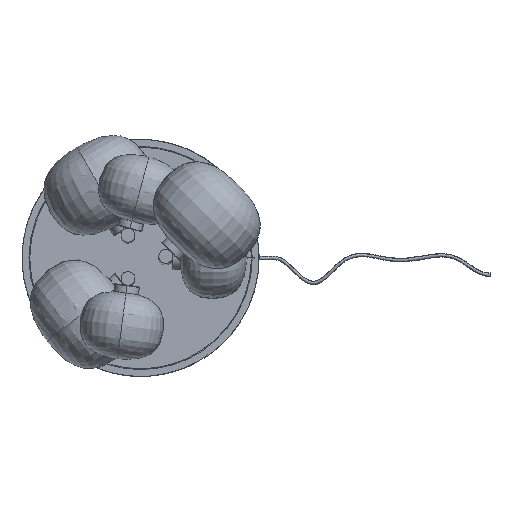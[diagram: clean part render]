
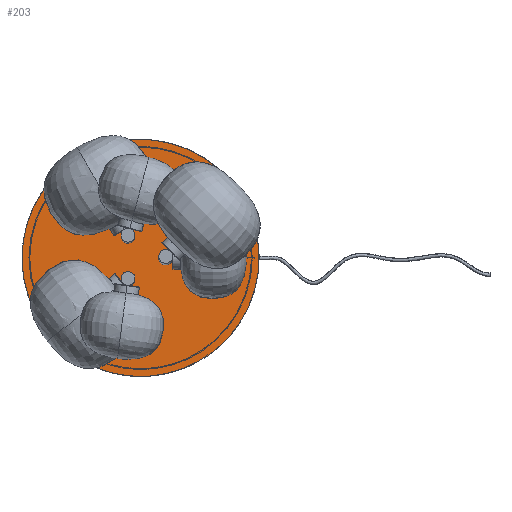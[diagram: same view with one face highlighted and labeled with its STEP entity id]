
A CAD part, top view. The second image highlights one B-rep face of the part: STEP entity #203.
In plain terms, the highlighted free-form (B-spline) face has degree [1, 1] with [2, 2] control points.
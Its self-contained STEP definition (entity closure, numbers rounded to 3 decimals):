
#52=B_SPLINE_SURFACE_WITH_KNOTS('',1,1,((#15540,#15541),(#15542,#15543)),
 .UNSPECIFIED.,.F.,.F.,.F.,(2,2),(2,2),(-212.5,212.5),(-212.5,212.5),
 .UNSPECIFIED.);
#203=ADVANCED_FACE('',(#423),#52,.T.);
#423=FACE_OUTER_BOUND('',#648,.T.);
#648=EDGE_LOOP('',(#1037,#1038));
#1037=ORIENTED_EDGE('',*,*,#5821,.F.);
#1038=ORIENTED_EDGE('',*,*,#5825,.T.);
#2118=PCURVE('',#7197,#3204);
#2123=PCURVE('',#52,#3209);
#2124=PCURVE('',#52,#3210);
#2127=PCURVE('',#7198,#3213);
#3204=DEFINITIONAL_REPRESENTATION('',(#4302),#44035);
#3209=DEFINITIONAL_REPRESENTATION('',(#6360),#44035);
#3210=DEFINITIONAL_REPRESENTATION('',(#6362),#44035);
#3213=DEFINITIONAL_REPRESENTATION('',(#4307),#44035);
#4302=B_SPLINE_CURVE_WITH_KNOTS('',1,(#15567,#15568),.UNSPECIFIED.,.F.,
 .F.,(2,2),(-534.071,0.),.UNSPECIFIED.);
#4307=B_SPLINE_CURVE_WITH_KNOTS('',1,(#15614,#15615),.UNSPECIFIED.,.F.,
 .F.,(2,2),(534.071,1068.142),.UNSPECIFIED.);
#5277=SURFACE_CURVE('',#6354,(#2118,#2123),.PCURVE_S1.);
#5281=SURFACE_CURVE('',#6361,(#2124,#2127),.PCURVE_S1.);
#5821=EDGE_CURVE('',#6870,#6868,#5277,.T.);
#5825=EDGE_CURVE('',#6870,#6868,#5281,.T.);
#6354=(
BOUNDED_CURVE()
B_SPLINE_CURVE(2,(#15562,#15563,#15564,#15565,#15566),.UNSPECIFIED.,.F.,
 .F.)
B_SPLINE_CURVE_WITH_KNOTS((3,2,3),(-534.071,-267.035,
0.),.UNSPECIFIED.)
CURVE()
GEOMETRIC_REPRESENTATION_ITEM()
RATIONAL_B_SPLINE_CURVE((1.,0.707,1.,0.707,1.))
REPRESENTATION_ITEM('')
);
#6360=(
BOUNDED_CURVE()
B_SPLINE_CURVE(2,(#15595,#15596,#15597,#15598,#15599),.UNSPECIFIED.,.F.,
 .F.)
B_SPLINE_CURVE_WITH_KNOTS((3,2,3),(-534.071,-267.035,
0.),.UNSPECIFIED.)
CURVE()
GEOMETRIC_REPRESENTATION_ITEM()
RATIONAL_B_SPLINE_CURVE((1.,0.707,1.,0.707,1.))
REPRESENTATION_ITEM('')
);
#6361=(
BOUNDED_CURVE()
B_SPLINE_CURVE(2,(#15600,#15601,#15602,#15603,#15604),.UNSPECIFIED.,.F.,
 .F.)
B_SPLINE_CURVE_WITH_KNOTS((3,2,3),(534.071,801.106,1068.142),
 .UNSPECIFIED.)
CURVE()
GEOMETRIC_REPRESENTATION_ITEM()
RATIONAL_B_SPLINE_CURVE((1.,0.707,1.,0.707,1.))
REPRESENTATION_ITEM('')
);
#6362=(
BOUNDED_CURVE()
B_SPLINE_CURVE(2,(#15605,#15606,#15607,#15608,#15609),.UNSPECIFIED.,.F.,
 .F.)
B_SPLINE_CURVE_WITH_KNOTS((3,2,3),(534.071,801.106,1068.142),
 .UNSPECIFIED.)
CURVE()
GEOMETRIC_REPRESENTATION_ITEM()
RATIONAL_B_SPLINE_CURVE((1.,0.707,1.,0.707,1.))
REPRESENTATION_ITEM('')
);
#6868=VERTEX_POINT('',#15555);
#6870=VERTEX_POINT('',#15557);
#7197=(
BOUNDED_SURFACE()
B_SPLINE_SURFACE(2,1,((#15526,#15527),(#15528,#15529),(#15530,#15531),(#15532,
#15533),(#15534,#15535)),.UNSPECIFIED.,.F.,.F.,.F.)
B_SPLINE_SURFACE_WITH_KNOTS((3,2,3),(2,2),(0.,267.035,534.071),
(0.,3.),.UNSPECIFIED.)
GEOMETRIC_REPRESENTATION_ITEM()
RATIONAL_B_SPLINE_SURFACE(((1.,1.),(0.707,0.707),
(1.,1.),(0.707,0.707),(1.,1.)))
REPRESENTATION_ITEM('')
SURFACE()
);
#7198=(
BOUNDED_SURFACE()
B_SPLINE_SURFACE(2,1,((#15544,#15545),(#15546,#15547),(#15548,#15549),(#15550,
#15551),(#15552,#15553)),.UNSPECIFIED.,.F.,.F.,.F.)
B_SPLINE_SURFACE_WITH_KNOTS((3,2,3),(2,2),(534.071,801.106,
1068.142),(0.,3.),.UNSPECIFIED.)
GEOMETRIC_REPRESENTATION_ITEM()
RATIONAL_B_SPLINE_SURFACE(((1.,1.),(0.707,0.707),
(1.,1.),(0.707,0.707),(1.,1.)))
REPRESENTATION_ITEM('')
SURFACE()
);
#15526=CARTESIAN_POINT('',(1096.206,385.524,-3.));
#15527=CARTESIAN_POINT('',(1096.206,385.524,0.));
#15528=CARTESIAN_POINT('',(1243.43,470.524,-3.));
#15529=CARTESIAN_POINT('',(1243.43,470.524,0.));
#15530=CARTESIAN_POINT('',(1158.43,617.748,-3.));
#15531=CARTESIAN_POINT('',(1158.43,617.748,0.));
#15532=CARTESIAN_POINT('',(1073.43,764.972,-3.));
#15533=CARTESIAN_POINT('',(1073.43,764.972,0.));
#15534=CARTESIAN_POINT('',(926.206,679.972,-3.));
#15535=CARTESIAN_POINT('',(926.206,679.972,0.));
#15540=CARTESIAN_POINT('',(720.925,610.529,0.));
#15541=CARTESIAN_POINT('',(1088.986,823.029,0.));
#15542=CARTESIAN_POINT('',(933.425,242.468,0.));
#15543=CARTESIAN_POINT('',(1301.486,454.968,0.));
#15544=CARTESIAN_POINT('',(926.206,679.972,-3.));
#15545=CARTESIAN_POINT('',(926.206,679.972,0.));
#15546=CARTESIAN_POINT('',(778.981,594.972,-3.));
#15547=CARTESIAN_POINT('',(778.981,594.972,0.));
#15548=CARTESIAN_POINT('',(863.981,447.748,-3.));
#15549=CARTESIAN_POINT('',(863.981,447.748,0.));
#15550=CARTESIAN_POINT('',(948.981,300.524,-3.));
#15551=CARTESIAN_POINT('',(948.981,300.524,0.));
#15552=CARTESIAN_POINT('',(1096.206,385.524,-3.));
#15553=CARTESIAN_POINT('',(1096.206,385.524,0.));
#15555=CARTESIAN_POINT('',(1096.206,385.524,0.));
#15557=CARTESIAN_POINT('',(926.206,679.972,0.));
#15562=CARTESIAN_POINT('',(926.206,679.972,0.));
#15563=CARTESIAN_POINT('',(1073.43,764.972,0.));
#15564=CARTESIAN_POINT('',(1158.43,617.748,0.));
#15565=CARTESIAN_POINT('',(1243.43,470.524,0.));
#15566=CARTESIAN_POINT('',(1096.206,385.524,0.));
#15567=CARTESIAN_POINT('',(534.071,3.));
#15568=CARTESIAN_POINT('',(0.,3.));
#15595=CARTESIAN_POINT('',(-170.,0.));
#15596=CARTESIAN_POINT('',(-170.,170.));
#15597=CARTESIAN_POINT('',(0.,170.));
#15598=CARTESIAN_POINT('',(170.,170.));
#15599=CARTESIAN_POINT('',(170.,0.));
#15600=CARTESIAN_POINT('',(926.206,679.972,0.));
#15601=CARTESIAN_POINT('',(778.981,594.972,0.));
#15602=CARTESIAN_POINT('',(863.981,447.748,0.));
#15603=CARTESIAN_POINT('',(948.981,300.524,0.));
#15604=CARTESIAN_POINT('',(1096.206,385.524,0.));
#15605=CARTESIAN_POINT('',(-170.,0.));
#15606=CARTESIAN_POINT('',(-170.,-170.));
#15607=CARTESIAN_POINT('',(0.,-170.));
#15608=CARTESIAN_POINT('',(170.,-170.));
#15609=CARTESIAN_POINT('',(170.,0.));
#15614=CARTESIAN_POINT('',(534.071,3.));
#15615=CARTESIAN_POINT('',(1068.142,3.));
#44035=(
GEOMETRIC_REPRESENTATION_CONTEXT(2)
PARAMETRIC_REPRESENTATION_CONTEXT()
REPRESENTATION_CONTEXT('pspace','')
);
